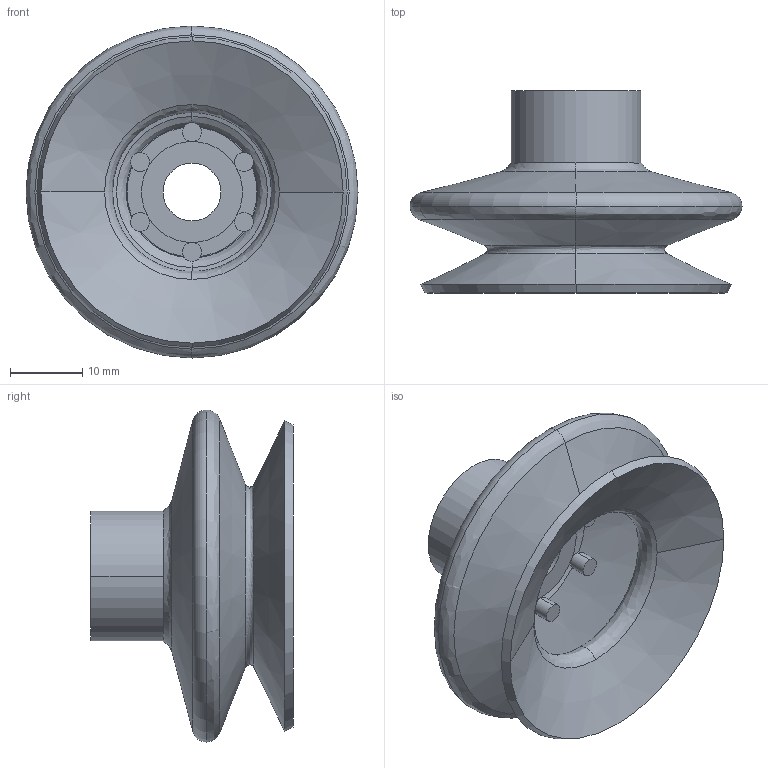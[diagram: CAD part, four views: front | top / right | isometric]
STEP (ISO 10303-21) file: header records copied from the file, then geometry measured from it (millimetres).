
FILE_DESCRIPTION (( 'STEP AP214' ), '1' );
FILE_NAME ('VS2-SA43.STEP', '2019-11-13T08:16:27', ( '微软用户' ), ( '微软中国' ), 'SwSTEP 2.0', 'SolidWorks 2016', '' );
FILE_SCHEMA (( 'AUTOMOTIVE_DESIGN' ));
Length unit declared in the file: millimetre
Products named in the file (1): VS2-SA43
Bounding box: 46 x 28 x 46 mm (x, y, z)
Volume: 8510.9 mm3; surface area: 9539.2 mm2
Topology: 1 solids, 1 shells, 53 faces, 132 edges, 76 vertices
Faces by surface type: cylinder 16, cone 14, bspline 12, plane 9, torus 2
Entity records: 1854 total; most frequent: CARTESIAN_POINT 714, ORIENTED_EDGE 240, DIRECTION 230, EDGE_CURVE 120, AXIS2_PLACEMENT_3D 100, VERTEX_POINT 70, CIRCLE 58, EDGE_LOOP 56
